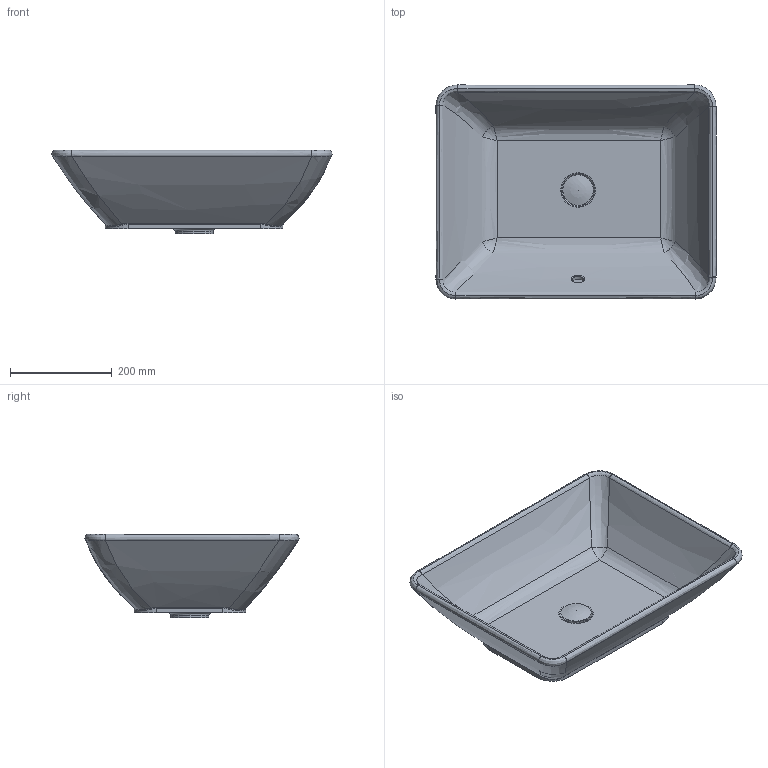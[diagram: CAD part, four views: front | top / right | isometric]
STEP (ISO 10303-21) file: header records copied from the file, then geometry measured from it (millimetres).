
FILE_DESCRIPTION((''),'2;1');
FILE_NAME('C:\Dokumente und Einstellungen\Andreas\Desktop\033542.stp','2009-02-09T17:37:32',('Andreas'),(''),'Autodesk Inventor 2009','Autodesk Inventor 2009','');
FILE_SCHEMA(('AUTOMOTIVE_DESIGN { 1 0 10303 214 1 1 1 1 }'));
Length unit declared in the file: millimetre
Products named in the file (4): 033452; Kelch; Stopfen
Assembly tree (3 placements, depth 2):
  033452
    033452
    Kelch
    Stopfen
Bounding box: 551.31 x 421.29 x 165 mm (x, y, z)
Volume: 5772061.4 mm3; surface area: 796921.9 mm2
Topology: 4 solids, 4 shells, 175 faces, 417 edges, 250 vertices
Faces by surface type: bspline 77, cylinder 40, plane 37, torus 18, cone 3
Full cylindrical faces by diameter (mm): 23.312 x1, 42 x1, 44 x1, 52 x2, 60 x1, 75 x1
Entity records: 12063 total; most frequent: CARTESIAN_POINT 8431, ORIENTED_EDGE 790, DIRECTION 602, EDGE_CURVE 395, AXIS2_PLACEMENT_3D 250, VERTEX_POINT 246, EDGE_LOOP 199, FACE_OUTER_BOUND 175
